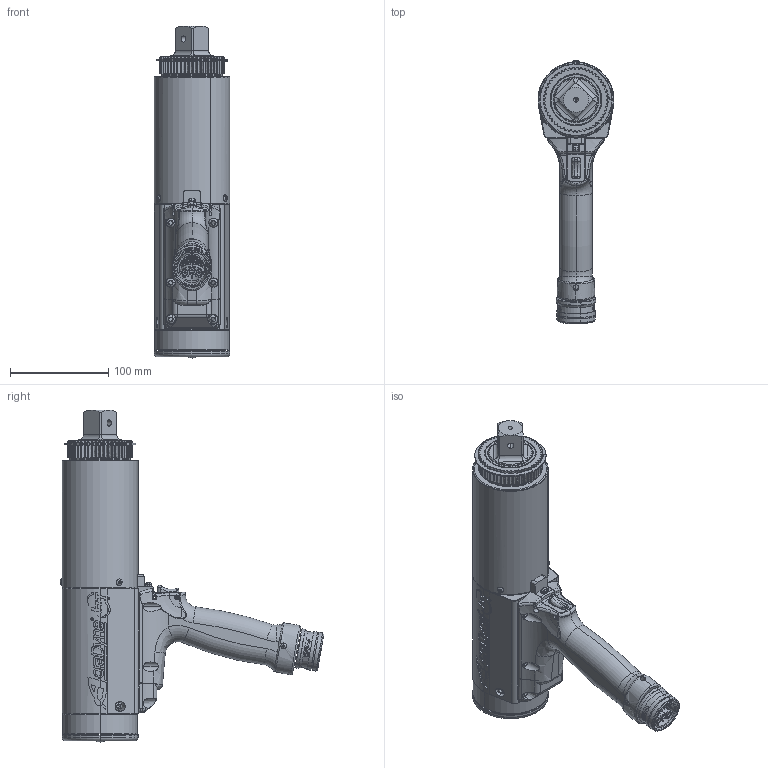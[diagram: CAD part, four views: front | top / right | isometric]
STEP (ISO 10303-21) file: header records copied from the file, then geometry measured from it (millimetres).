
FILE_DESCRIPTION (( 'STEP AP214' ), '1' );
FILE_NAME ('AEP4A772500B.STEP', '2022-07-18T22:02:23', ( '' ), ( '' ), 'SwSTEP 2.0', 'SolidWorks 2022', '' );
FILE_SCHEMA (( 'AUTOMOTIVE_DESIGN' ));
Length unit declared in the file: inch
Products named in the file (1): AEP4A772500B
Bounding box: 77.47 x 268.69 x 338.52 mm (x, y, z)
Surface area: 183801 mm2 (no closed solid volume)
Topology: 0 solids, 72 shells, 1181 faces, 4615 edges, 3320 vertices
Faces by surface type: cylinder 369, plane 338, bspline 214, torus 130, cone 118, sphere 12
Entity records: 119687 total; most frequent: CARTESIAN_POINT 70170, ORIENTED_EDGE 7188, DIRECTION 5990, EDGE_CURVE 4611, VERTEX_POINT 3320, AXIS2_PLACEMENT_3D 2184, LINE 1622, VECTOR 1622
